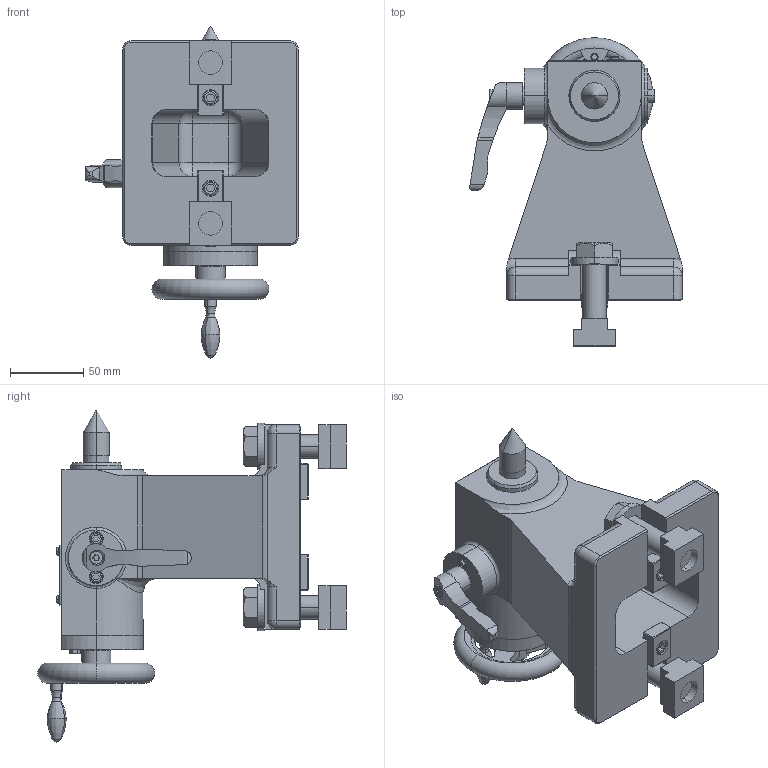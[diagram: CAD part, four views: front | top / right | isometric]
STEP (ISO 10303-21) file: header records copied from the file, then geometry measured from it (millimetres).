
FILE_DESCRIPTION (( 'STEP AP214' ), '1' );
FILE_NAME ('【掲載用】MR160RN.STEP', '2022-01-19T02:40:30', ( '' ), ( '' ), 'SwSTEP 2.0', 'SolidWorks 2020', '' );
FILE_SCHEMA (( 'AUTOMOTIVE_DESIGN' ));
Length unit declared in the file: millimetre
Products named in the file (14): クランププレート(61E4407141)RS100LS; F-80-1; ネームプレート(61E4736691); ガイドブロック(61M4197783); クランプレバ－ FKR8×15-SV イマオ; センタソケット(61E3654831)MR160RS001; SM-5; ハンドル PAD; ボデー(61E2468791)MR160RN; 【掲載用】MR160RN; MR160RNホンタイ; カバー(61E4407170)RS100LS; CLAMPING PARTS(61E4343671)結合; ブラケット(61E4407131)RS100LS
Assembly tree (15 placements, depth 3):
  【掲載用】MR160RN
    MR160RNホンタイ
      ボデー(61E2468791)MR160RN
      ブラケット(61E4407131)RS100LS
      クランププレート(61E4407141)RS100LS
      カバー(61E4407170)RS100LS
      センタソケット(61E3654831)MR160RS001
      クランプレバ－ FKR8×15-SV イマオ
      ネームプレート(61E4736691)
      ガイドブロック(61M4197783)  x2
    CLAMPING PARTS(61E4343671)結合  x2
    ハンドル PAD
      F-80-1
      SM-5
Bounding box: 145.28 x 211 x 227 mm (x, y, z)
Volume: 1160630.3 mm3; surface area: 181305.1 mm2
Topology: 13 solids, 13 shells, 1987 faces, 5476 edges, 3582 vertices
Faces by surface type: plane 1648, cylinder 210, cone 50, bspline 37, torus 30, sphere 12
Entity records: 65546 total; most frequent: CARTESIAN_POINT 15003, ORIENTED_EDGE 10600, DIRECTION 9428, EDGE_CURVE 5300, LINE 4690, VECTOR 4690, VERTEX_POINT 3482, AXIS2_PLACEMENT_3D 2369
